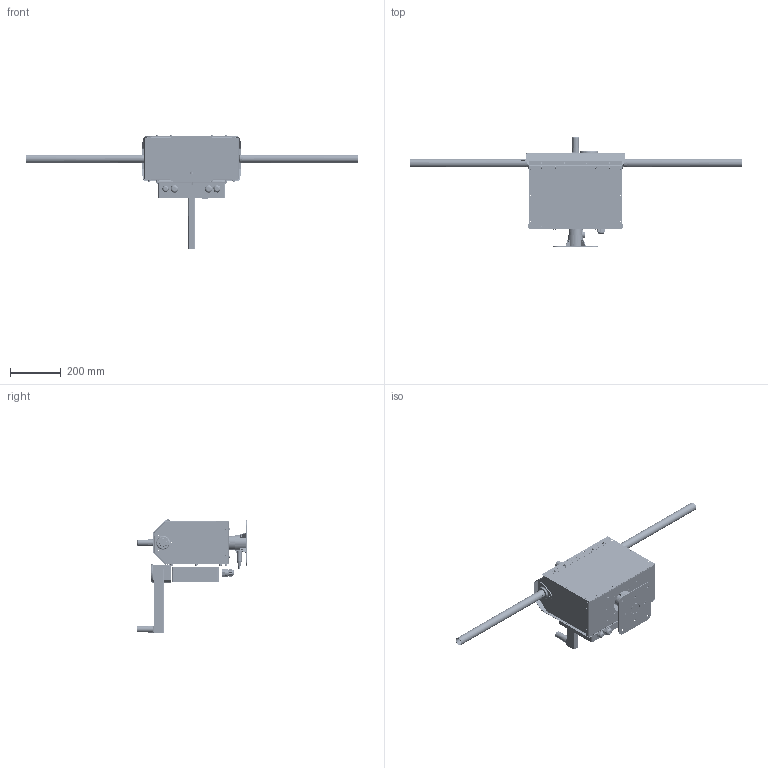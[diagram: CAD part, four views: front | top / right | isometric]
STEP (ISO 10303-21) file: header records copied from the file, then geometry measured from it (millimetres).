
FILE_DESCRIPTION(('STEP AP203'), '1');
FILE_NAME('ﾑﾁﾎﾐﾊﾀ_ﾏﾎﾂﾎﾐﾎﾒﾍﾎﾅ_ﾓﾑﾒﾐﾎﾉﾑﾒﾂﾎ_ﾊﾏﾓ_01_v2_16_5', '', ('UNSPECIFIED'), ('UNSPECIFIED'), 'C3D Converter', 'C3D Toolkit', '');
FILE_SCHEMA(('CONFIG_CONTROL_DESIGN'));
Length unit declared in the file: millimetre
Products named in the file (80): TS01-01-нов кожух; TS01-01-04; TS01-01-02; TS01-01-01; TS24; TS01-01-07 труба 20*2,5; TS01-01-08; TS22; -01; GPS ant; 997; TS41; TS21-02 для норвой комбинорованной бок и верх совмещенной; TS022; TS30; TS40-03; TS30-01; -с кабелем; TS01-01-12; ГЕРМОБОКС; Разъем внутренний; Прокладка резиновая 2; Гайка; Прокладка резиновая; Втулка резьбовая; Втулка уплотнительная разрезная; Гайка колпачковая; Кебрик(термоусадка); Разъем RJ-45; -pg11 как бы; ppg16 как бы; TL-SG105E-AP214; TL-SG205EBODY_TL-SG105E; RJ45_Penta; RJ45SOCKETE_Single; LED-RJ45_PREDET; RJPIN; PLUG; PKGOLED_25-4; TS21_Крышка боковая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
Assembly tree (223 placements, depth 5):
  TS01-01-нов кожух
    TS01-01-04
      (unnamed)  x12
      TS01-01-02
        TS01-01-01
          TS24
    TS01-01-07 труба 20*2,5
    TS01-01-08
      TS22
      -01
        GPS ant
        997
        (unnamed)
      TS41
    TS21-02 для норвой комбинорованной бок и верх совмещенной
    TS022
      TS30
      TS40-03
      TS30-01  x4
      -с кабелем
      (unnamed)
    TS01-01-12
    ГЕРМОБОКС
      (unnamed)
        Разъем внутренний
        Прокладка резиновая 2
        Гайка
        Прокладка резиновая
        Втулка резьбовая
        Втулка уплотнительная разрезная
        Гайка колпачковая
        Кебрик(термоусадка)
        (unnamed)
        Разъем RJ-45
      -pg11 как бы
        (unnamed)
        (unnamed)
        (unnamed)
        (unnamed)
      ppg16 как бы  x2
        (unnamed)
        (unnamed)
        (unnamed)
        (unnamed)
      (unnamed)
        (unnamed)
        (unnamed)
        (unnamed)
        (unnamed)
        (unnamed)
        (unnamed)
        (unnamed)
      TL-SG105E-AP214
        TL-SG205EBODY_TL-SG105E
        RJ45_Penta
          RJ45SOCKETE_Single  x6
          LED-RJ45_PREDET  x10
          RJPIN  x40
        PLUG
        PKGOLED_25-4
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Bounding box: 1302.47 x 431.79 x 449.3 mm (x, y, z)
Volume: 5411873.7 mm3; surface area: 2733414.7 mm2
Topology: 139 solids, 144 shells, 3768 faces, 9804 edges, 6556 vertices
Faces by surface type: plane 2194, cylinder 1117, cone 289, torus 77, bspline 74, extrusion 16, revolution 1
Full cylindrical faces by diameter (mm): 1 x2, 1.2 x1, 1.5 x28, 1.6 x11, 2 x6, 2.05 x2, 2.2 x16, 2.5 x2, 2.6 x8, 2.8 x4, 3.2 x4, 3.3 x16, 3.35 x2, 4 x64, 4.134 x30, 4.2 x2, 4.8 x8, 5 x52, 5.2 x2, 5.3 x8, 5.4 x6, 5.5 x43, 5.6 x3, 5.978 x30, 6 x11, 6.2 x38, 6.3 x2, 6.4 x3, 6.5 x8, 6.7 x2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
Entity records: 111481 total; most frequent: CARTESIAN_POINT 44925, DIRECTION 11168, ORIENTED_EDGE 10990, EDGE_CURVE 5498, AXIS2_PLACEMENT_3D 4118, VERTEX_POINT 3874, EDGE_LOOP 3373, VECTOR 2931
